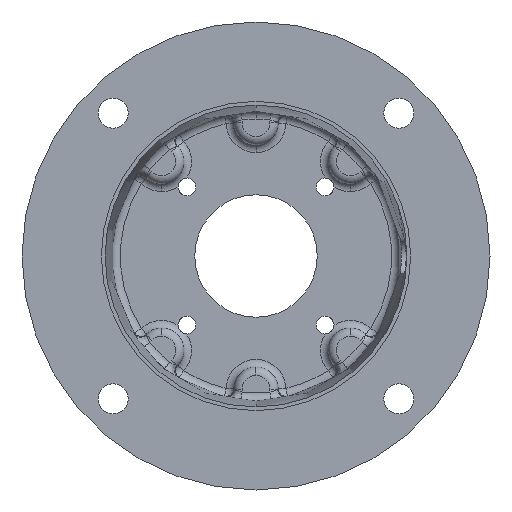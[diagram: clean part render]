
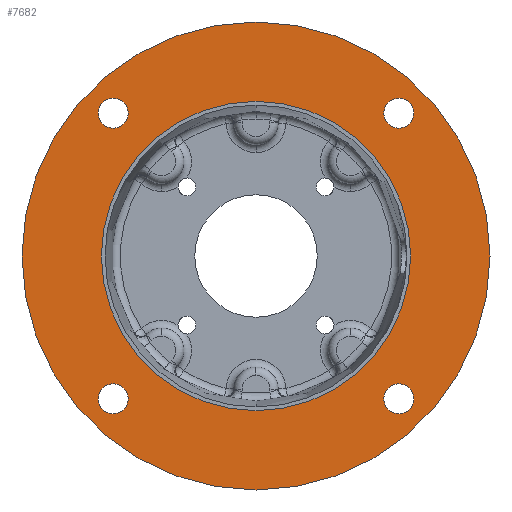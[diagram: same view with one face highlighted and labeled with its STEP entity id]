
A CAD part, front view. The second image highlights one B-rep face of the part: STEP entity #7682.
In plain terms, the highlighted planar face has unit normal (0, -1, 0).
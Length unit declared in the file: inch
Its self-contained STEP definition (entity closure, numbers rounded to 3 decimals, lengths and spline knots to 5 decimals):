
#3273 = CARTESIAN_POINT ( 'NONE',  ( 0., 0., -2.2505 ) ) ;
#3274 = CARTESIAN_POINT ( 'NONE',  ( -2.07889, 0., -1.86014 ) ) ;
#3279 = CARTESIAN_POINT ( 'NONE',  ( -2.07889, 0., -2.29764 ) ) ;
#3335 = CARTESIAN_POINT ( 'NONE',  ( 2.07889, 0., 1.86014 ) ) ;
#3350 = DIRECTION ( 'NONE',  ( 0., 0., 1. ) ) ;
#3351 = DIRECTION ( 'NONE',  ( 0., 1., 0. ) ) ;
#3352 = CARTESIAN_POINT ( 'NONE',  ( 2.07889, 0., 2.07889 ) ) ;
#3353 = AXIS2_PLACEMENT_3D ( 'NONE', #3352, #3351, #3350 ) ;
#3357 = CIRCLE ( 'NONE', #3353, 0.21875 ) ;
#3359 = CARTESIAN_POINT ( 'NONE',  ( 2.07889, 0., 2.29764 ) ) ;
#3420 = CARTESIAN_POINT ( 'NONE',  ( 2.07889, 0., -1.86014 ) ) ;
#3435 = CARTESIAN_POINT ( 'NONE',  ( 2.07889, 0., -2.29764 ) ) ;
#3684 = CARTESIAN_POINT ( 'NONE',  ( -2.07889, 0., 2.29764 ) ) ;
#3685 = CARTESIAN_POINT ( 'NONE',  ( -2.07889, 0., 1.86014 ) ) ;
#3686 = DIRECTION ( 'NONE',  ( 0., 0., 1. ) ) ;
#3687 = DIRECTION ( 'NONE',  ( 0., 1., 0. ) ) ;
#3688 = CARTESIAN_POINT ( 'NONE',  ( -2.07889, 0., 2.07889 ) ) ;
#3689 = AXIS2_PLACEMENT_3D ( 'NONE', #3688, #3687, #3686 ) ;
#3690 = CIRCLE ( 'NONE', #3689, 0.21875 ) ;
#3691 = DIRECTION ( 'NONE',  ( 0., 0., -1. ) ) ;
#3692 = DIRECTION ( 'NONE',  ( 0., -1., 0. ) ) ;
#3693 = CARTESIAN_POINT ( 'NONE',  ( 0., 0., 0. ) ) ;
#3694 = AXIS2_PLACEMENT_3D ( 'NONE', #3693, #3692, #3691 ) ;
#3695 = CIRCLE ( 'NONE', #3694, 2.2505 ) ;
#3819 = DIRECTION ( 'NONE',  ( 0., 0., 1. ) ) ;
#3820 = DIRECTION ( 'NONE',  ( 0., 1., 0. ) ) ;
#3821 = CARTESIAN_POINT ( 'NONE',  ( 2.07889, 0., -2.07889 ) ) ;
#3822 = AXIS2_PLACEMENT_3D ( 'NONE', #3821, #3820, #3819 ) ;
#3823 = CIRCLE ( 'NONE', #3822, 0.21875 ) ;
#3831 = DIRECTION ( 'NONE',  ( 0., 0., 1. ) ) ;
#3832 = DIRECTION ( 'NONE',  ( 0., 1., 0. ) ) ;
#3833 = CARTESIAN_POINT ( 'NONE',  ( -2.07889, 0., -2.07889 ) ) ;
#3834 = AXIS2_PLACEMENT_3D ( 'NONE', #3833, #3832, #3831 ) ;
#3835 = CIRCLE ( 'NONE', #3834, 0.21875 ) ;
#3836 = CARTESIAN_POINT ( 'NONE',  ( 0., 0., 2.2505 ) ) ;
#4736 = CARTESIAN_POINT ( 'NONE',  ( 0., 0., -3.405 ) ) ;
#4737 = DIRECTION ( 'NONE',  ( 0., 0., -1. ) ) ;
#4738 = DIRECTION ( 'NONE',  ( 0., -1., 0. ) ) ;
#4739 = CARTESIAN_POINT ( 'NONE',  ( 0., 0., 0. ) ) ;
#4740 = AXIS2_PLACEMENT_3D ( 'NONE', #4739, #4738, #4737 ) ;
#4741 = CIRCLE ( 'NONE', #4740, 3.405 ) ;
#4742 = CARTESIAN_POINT ( 'NONE',  ( 0., 0., 3.405 ) ) ;
#5931 = DIRECTION ( 'NONE',  ( 0., 0., -1. ) ) ;
#5932 = DIRECTION ( 'NONE',  ( 0., -1., 0. ) ) ;
#5933 = CARTESIAN_POINT ( 'NONE',  ( 0., 0., 0. ) ) ;
#5934 = AXIS2_PLACEMENT_3D ( 'NONE', #5933, #5932, #5931 ) ;
#5935 = CIRCLE ( 'NONE', #5934, 2.2505 ) ;
#5937 = DIRECTION ( 'NONE',  ( 0., 0., 1. ) ) ;
#5938 = DIRECTION ( 'NONE',  ( 0., 1., 0. ) ) ;
#5939 = AXIS2_PLACEMENT_3D ( 'NONE', #5940, #5938, #5937 ) ;
#5940 = CARTESIAN_POINT ( 'NONE',  ( -2.20315, 0., 0. ) ) ;
#5941 = PLANE ( 'NONE',  #5939 ) ;
#5942 = FACE_OUTER_BOUND ( 'NONE', #7674, .T. ) ;
#5943 = FACE_BOUND ( 'NONE', #7799, .T. ) ;
#5944 = FACE_BOUND ( 'NONE', #7696, .T. ) ;
#5945 = FACE_BOUND ( 'NONE', #7802, .T. ) ;
#5946 = FACE_BOUND ( 'NONE', #7667, .T. ) ;
#5947 = FACE_BOUND ( 'NONE', #7683, .T. ) ;
#5955 = DIRECTION ( 'NONE',  ( 0., 0., 1. ) ) ;
#5956 = DIRECTION ( 'NONE',  ( 0., 1., 0. ) ) ;
#5957 = CARTESIAN_POINT ( 'NONE',  ( 2.07889, 0., -2.07889 ) ) ;
#5965 = DIRECTION ( 'NONE',  ( 0., 0., 1. ) ) ;
#5966 = DIRECTION ( 'NONE',  ( 0., 1., 0. ) ) ;
#5967 = CARTESIAN_POINT ( 'NONE',  ( -2.07889, 0., -2.07889 ) ) ;
#5968 = AXIS2_PLACEMENT_3D ( 'NONE', #5967, #5966, #5965 ) ;
#5969 = CIRCLE ( 'NONE', #5968, 0.21875 ) ;
#5983 = AXIS2_PLACEMENT_3D ( 'NONE', #5957, #5956, #5955 ) ;
#5987 = CIRCLE ( 'NONE', #5983, 0.21875 ) ;
#6071 = DIRECTION ( 'NONE',  ( 0., 0., -1. ) ) ;
#6072 = DIRECTION ( 'NONE',  ( 0., -1., 0. ) ) ;
#6073 = CARTESIAN_POINT ( 'NONE',  ( 0., 0., 0. ) ) ;
#6074 = AXIS2_PLACEMENT_3D ( 'NONE', #6073, #6072, #6071 ) ;
#6154 = DIRECTION ( 'NONE',  ( 0., 0., 1. ) ) ;
#6155 = DIRECTION ( 'NONE',  ( 0., 1., 0. ) ) ;
#6156 = CARTESIAN_POINT ( 'NONE',  ( -2.07889, 0., 2.07889 ) ) ;
#6157 = AXIS2_PLACEMENT_3D ( 'NONE', #6156, #6155, #6154 ) ;
#6158 = CIRCLE ( 'NONE', #6157, 0.21875 ) ;
#6164 = CIRCLE ( 'NONE', #6074, 3.405 ) ;
#6211 = DIRECTION ( 'NONE',  ( 0., 0., 1. ) ) ;
#6212 = DIRECTION ( 'NONE',  ( 0., 1., 0. ) ) ;
#6213 = CARTESIAN_POINT ( 'NONE',  ( 2.07889, 0., 2.07889 ) ) ;
#6214 = AXIS2_PLACEMENT_3D ( 'NONE', #6213, #6212, #6211 ) ;
#6215 = CIRCLE ( 'NONE', #6214, 0.21875 ) ;
#6625 = VERTEX_POINT ( 'NONE', #3274 ) ;
#6626 = VERTEX_POINT ( 'NONE', #3273 ) ;
#6631 = VERTEX_POINT ( 'NONE', #3279 ) ;
#6635 = VERTEX_POINT ( 'NONE', #3435 ) ;
#6636 = VERTEX_POINT ( 'NONE', #3420 ) ;
#6683 = VERTEX_POINT ( 'NONE', #3359 ) ;
#6685 = EDGE_CURVE ( 'NONE', #6702, #6683, #3357, .T. ) ;
#6702 = VERTEX_POINT ( 'NONE', #3335 ) ;
#6824 = VERTEX_POINT ( 'NONE', #3836 ) ;
#6826 = EDGE_CURVE ( 'NONE', #6631, #6625, #3835, .T. ) ;
#6831 = EDGE_CURVE ( 'NONE', #6635, #6636, #3823, .T. ) ;
#6836 = EDGE_CURVE ( 'NONE', #6824, #6626, #3695, .T. ) ;
#6837 = EDGE_CURVE ( 'NONE', #6838, #6839, #3690, .T. ) ;
#6838 = VERTEX_POINT ( 'NONE', #3685 ) ;
#6839 = VERTEX_POINT ( 'NONE', #3684 ) ;
#7233 = VERTEX_POINT ( 'NONE', #4742 ) ;
#7235 = EDGE_CURVE ( 'NONE', #7236, #7233, #4741, .T. ) ;
#7236 = VERTEX_POINT ( 'NONE', #4736 ) ;
#7666 = ORIENTED_EDGE ( 'NONE', *, *, #6836, .F. ) ;
#7667 = EDGE_LOOP ( 'NONE', ( #7668, #7801 ) ) ;
#7668 = ORIENTED_EDGE ( 'NONE', *, *, #7669, .T. ) ;
#7669 = EDGE_CURVE ( 'NONE', #6636, #6635, #5987, .T. ) ;
#7674 = EDGE_LOOP ( 'NONE', ( #7675, #7676 ) ) ;
#7675 = ORIENTED_EDGE ( 'NONE', *, *, #7235, .T. ) ;
#7676 = ORIENTED_EDGE ( 'NONE', *, *, #7722, .T. ) ;
#7682 = ADVANCED_FACE ( 'NONE', ( #5947, #5946, #5945, #5944, #5943, #5942 ), #5941, .F. ) ;
#7683 = EDGE_LOOP ( 'NONE', ( #7684, #7666 ) ) ;
#7684 = ORIENTED_EDGE ( 'NONE', *, *, #7685, .F. ) ;
#7685 = EDGE_CURVE ( 'NONE', #6626, #6824, #5935, .T. ) ;
#7694 = EDGE_CURVE ( 'NONE', #6625, #6631, #5969, .T. ) ;
#7695 = ORIENTED_EDGE ( 'NONE', *, *, #6826, .T. ) ;
#7696 = EDGE_LOOP ( 'NONE', ( #7731, #7798 ) ) ;
#7722 = EDGE_CURVE ( 'NONE', #7233, #7236, #6164, .T. ) ;
#7731 = ORIENTED_EDGE ( 'NONE', *, *, #7732, .T. ) ;
#7732 = EDGE_CURVE ( 'NONE', #6839, #6838, #6158, .T. ) ;
#7798 = ORIENTED_EDGE ( 'NONE', *, *, #6837, .T. ) ;
#7799 = EDGE_LOOP ( 'NONE', ( #7800, #7833 ) ) ;
#7800 = ORIENTED_EDGE ( 'NONE', *, *, #7832, .T. ) ;
#7801 = ORIENTED_EDGE ( 'NONE', *, *, #6831, .T. ) ;
#7802 = EDGE_LOOP ( 'NONE', ( #7803, #7695 ) ) ;
#7803 = ORIENTED_EDGE ( 'NONE', *, *, #7694, .T. ) ;
#7832 = EDGE_CURVE ( 'NONE', #6683, #6702, #6215, .T. ) ;
#7833 = ORIENTED_EDGE ( 'NONE', *, *, #6685, .T. ) ;
